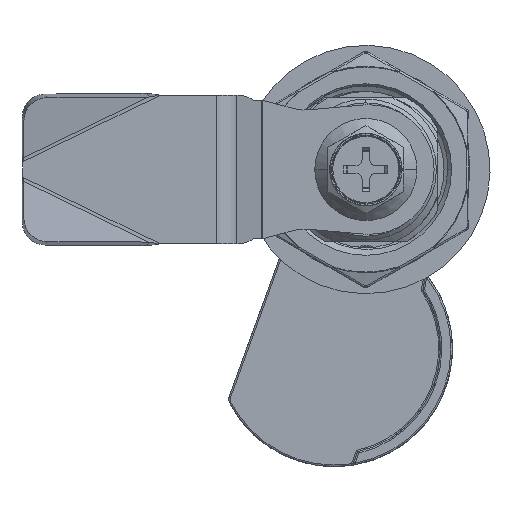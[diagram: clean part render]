
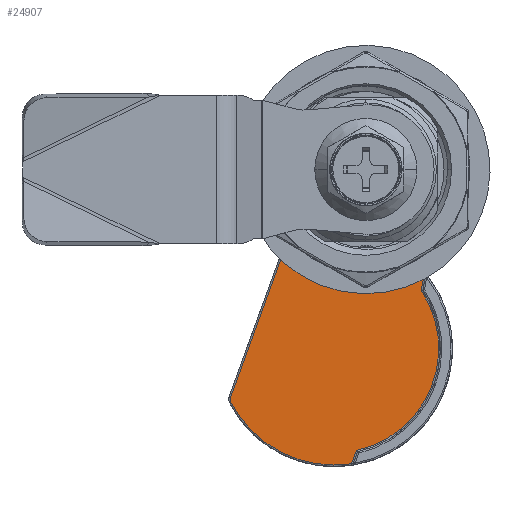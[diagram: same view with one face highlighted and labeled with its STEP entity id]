
A CAD part, front view. The second image highlights one B-rep face of the part: STEP entity #24907.
In plain terms, the highlighted planar face has unit normal (0, -1, 0).
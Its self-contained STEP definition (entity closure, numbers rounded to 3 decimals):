
#97 = CARTESIAN_POINT ( 'NONE',  ( -4.138, 0.9, -23.47 ) ) ;
#985 = DIRECTION ( 'NONE',  ( -0.94, 0., 0.342 ) ) ;
#1917 = VERTEX_POINT ( 'NONE', #9334 ) ;
#2725 = EDGE_CURVE ( 'NONE', #69412, #5900, #65464, .T. ) ;
#2998 = DIRECTION ( 'NONE',  ( 0., -1., 0. ) ) ;
#3839 = CARTESIAN_POINT ( 'NONE',  ( -17.712, 0.9, -30.53 ) ) ;
#4407 = EDGE_LOOP ( 'NONE', ( #50635, #27725, #33558, #42327, #45142, #8785, #68748, #22083 ) ) ;
#5004 = VERTEX_POINT ( 'NONE', #3839 ) ;
#5900 = VERTEX_POINT ( 'NONE', #36673 ) ;
#6180 = FACE_BOUND ( 'NONE', #19489, .T. ) ;
#6390 = CARTESIAN_POINT ( 'NONE',  ( -9.692, 0.9, -10.076 ) ) ;
#7436 = DIRECTION ( 'NONE',  ( -0.94, 0., 0.342 ) ) ;
#8785 = ORIENTED_EDGE ( 'NONE', *, *, #83202, .T. ) ;
#9334 = CARTESIAN_POINT ( 'NONE',  ( -1.878, 0.9, -38.602 ) ) ;
#11297 = DIRECTION ( 'NONE',  ( 0., -1., 0. ) ) ;
#12137 = CARTESIAN_POINT ( 'NONE',  ( 7.269, 0.9, -15.883 ) ) ;
#12320 = EDGE_CURVE ( 'NONE', #73717, #12731, #65399, .T. ) ;
#12731 = VERTEX_POINT ( 'NONE', #53435 ) ;
#12740 = FACE_OUTER_BOUND ( 'NONE', #4407, .T. ) ;
#14477 = DIRECTION ( 'NONE',  ( 0., -1., 0. ) ) ;
#16465 = CARTESIAN_POINT ( 'NONE',  ( 2.721, 0.9, -25.967 ) ) ;
#16600 = CARTESIAN_POINT ( 'NONE',  ( -14.099, 0.9, -19.845 ) ) ;
#19489 = EDGE_LOOP ( 'NONE', ( #32917, #66980 ) ) ;
#19528 = VERTEX_POINT ( 'NONE', #32820 ) ;
#20131 = DIRECTION ( 'NONE',  ( 0., 1., 0. ) ) ;
#21375 = DIRECTION ( 'NONE',  ( 0., 1., 0. ) ) ;
#22083 = ORIENTED_EDGE ( 'NONE', *, *, #46353, .T. ) ;
#22453 = EDGE_CURVE ( 'NONE', #38804, #71438, #61802, .T. ) ;
#22975 = CARTESIAN_POINT ( 'NONE',  ( 1.55, 0.9, -12.664 ) ) ;
#24589 = CARTESIAN_POINT ( 'NONE',  ( 0., 0.9, -12.1 ) ) ;
#24709 = LINE ( 'NONE', #16465, #58066 ) ;
#24841 = DIRECTION ( 'NONE',  ( -0.342, 0., -0.94 ) ) ;
#24907 = ADVANCED_FACE ( 'NONE', ( #6180, #12740 ), #79921, .F. ) ;
#27725 = ORIENTED_EDGE ( 'NONE', *, *, #57742, .T. ) ;
#30889 = CARTESIAN_POINT ( 'NONE',  ( -4.138, 0.9, -23.47 ) ) ;
#32800 = CIRCLE ( 'NONE', #67719, 1.65 ) ;
#32820 = CARTESIAN_POINT ( 'NONE',  ( -17.754, 0.9, -29.887 ) ) ;
#32917 = ORIENTED_EDGE ( 'NONE', *, *, #48867, .T. ) ;
#33558 = ORIENTED_EDGE ( 'NONE', *, *, #35534, .T. ) ;
#34170 = VECTOR ( 'NONE', #24841, 1000. ) ;
#34443 = CARTESIAN_POINT ( 'NONE',  ( -9.999, 0.9, -9.337 ) ) ;
#35534 = EDGE_CURVE ( 'NONE', #1917, #45779, #24709, .T. ) ;
#36673 = CARTESIAN_POINT ( 'NONE',  ( -1.55, 0.9, -11.536 ) ) ;
#38804 = VERTEX_POINT ( 'NONE', #12137 ) ;
#39244 = CARTESIAN_POINT ( 'NONE',  ( -4.138, 0.9, -23.47 ) ) ;
#39832 = VECTOR ( 'NONE', #81436, 1000. ) ;
#40082 = EDGE_CURVE ( 'NONE', #19528, #5004, #56771, .T. ) ;
#40131 = AXIS2_PLACEMENT_3D ( 'NONE', #73439, #14477, #985 ) ;
#40151 = CARTESIAN_POINT ( 'NONE',  ( 0., 0.9, -12.1 ) ) ;
#42327 = ORIENTED_EDGE ( 'NONE', *, *, #65168, .T. ) ;
#43174 = CARTESIAN_POINT ( 'NONE',  ( -17.003, 0.9, -30.161 ) ) ;
#44328 = CIRCLE ( 'NONE', #40131, 13.7 ) ;
#45035 = CARTESIAN_POINT ( 'NONE',  ( 7.634, 0.9, -13.698 ) ) ;
#45142 = ORIENTED_EDGE ( 'NONE', *, *, #22453, .T. ) ;
#45226 = CIRCLE ( 'NONE', #84352, 15.3 ) ;
#45779 = VERTEX_POINT ( 'NONE', #64680 ) ;
#46353 = EDGE_CURVE ( 'NONE', #12731, #19528, #83360, .T. ) ;
#46493 = AXIS2_PLACEMENT_3D ( 'NONE', #97, #20131, #72536 ) ;
#48291 = CARTESIAN_POINT ( 'NONE',  ( 5.724, 0.9, -25.12 ) ) ;
#48528 = CIRCLE ( 'NONE', #58222, 15.3 ) ;
#48867 = EDGE_CURVE ( 'NONE', #5900, #69412, #32800, .T. ) ;
#50635 = ORIENTED_EDGE ( 'NONE', *, *, #40082, .T. ) ;
#53108 = DIRECTION ( 'NONE',  ( 0., -1., 0. ) ) ;
#53435 = CARTESIAN_POINT ( 'NONE',  ( -10.444, 0.9, -9.802 ) ) ;
#56771 = CIRCLE ( 'NONE', #67928, 0.8 ) ;
#57742 = EDGE_CURVE ( 'NONE', #5004, #1917, #48528, .T. ) ;
#57892 = DIRECTION ( 'NONE',  ( 0.342, 0., 0.94 ) ) ;
#58066 = VECTOR ( 'NONE', #57892, 1000. ) ;
#58222 = AXIS2_PLACEMENT_3D ( 'NONE', #30889, #58819, #84128 ) ;
#58819 = DIRECTION ( 'NONE',  ( 0., -1., 0. ) ) ;
#61802 = LINE ( 'NONE', #48291, #39832 ) ;
#63042 = DIRECTION ( 'NONE',  ( -0.94, 0., 0.342 ) ) ;
#64680 = CARTESIAN_POINT ( 'NONE',  ( -1.244, 0.9, -36.861 ) ) ;
#65168 = EDGE_CURVE ( 'NONE', #45779, #38804, #44328, .T. ) ;
#65399 = CIRCLE ( 'NONE', #70951, 0.8 ) ;
#65464 = CIRCLE ( 'NONE', #76617, 1.65 ) ;
#66980 = ORIENTED_EDGE ( 'NONE', *, *, #2725, .T. ) ;
#67719 = AXIS2_PLACEMENT_3D ( 'NONE', #24589, #76574, #63042 ) ;
#67928 = AXIS2_PLACEMENT_3D ( 'NONE', #43174, #11297, #70243 ) ;
#68748 = ORIENTED_EDGE ( 'NONE', *, *, #12320, .T. ) ;
#69412 = VERTEX_POINT ( 'NONE', #22975 ) ;
#70243 = DIRECTION ( 'NONE',  ( -0.94, 0., 0.342 ) ) ;
#70951 = AXIS2_PLACEMENT_3D ( 'NONE', #6390, #53108, #80564 ) ;
#71438 = VERTEX_POINT ( 'NONE', #45035 ) ;
#72536 = DIRECTION ( 'NONE',  ( -0.94, 0., 0.342 ) ) ;
#73439 = CARTESIAN_POINT ( 'NONE',  ( -4.138, 0.9, -23.47 ) ) ;
#73717 = VERTEX_POINT ( 'NONE', #34443 ) ;
#76312 = DIRECTION ( 'NONE',  ( -0.94, 0., 0.342 ) ) ;
#76574 = DIRECTION ( 'NONE',  ( 0., 1., 0. ) ) ;
#76617 = AXIS2_PLACEMENT_3D ( 'NONE', #40151, #21375, #7436 ) ;
#79921 = PLANE ( 'NONE',  #46493 ) ;
#80564 = DIRECTION ( 'NONE',  ( -0.94, 0., 0.342 ) ) ;
#81436 = DIRECTION ( 'NONE',  ( 0.165, 0., 0.986 ) ) ;
#83202 = EDGE_CURVE ( 'NONE', #71438, #73717, #45226, .T. ) ;
#83360 = LINE ( 'NONE', #16600, #34170 ) ;
#84128 = DIRECTION ( 'NONE',  ( -0.94, 0., 0.342 ) ) ;
#84352 = AXIS2_PLACEMENT_3D ( 'NONE', #39244, #2998, #76312 ) ;
